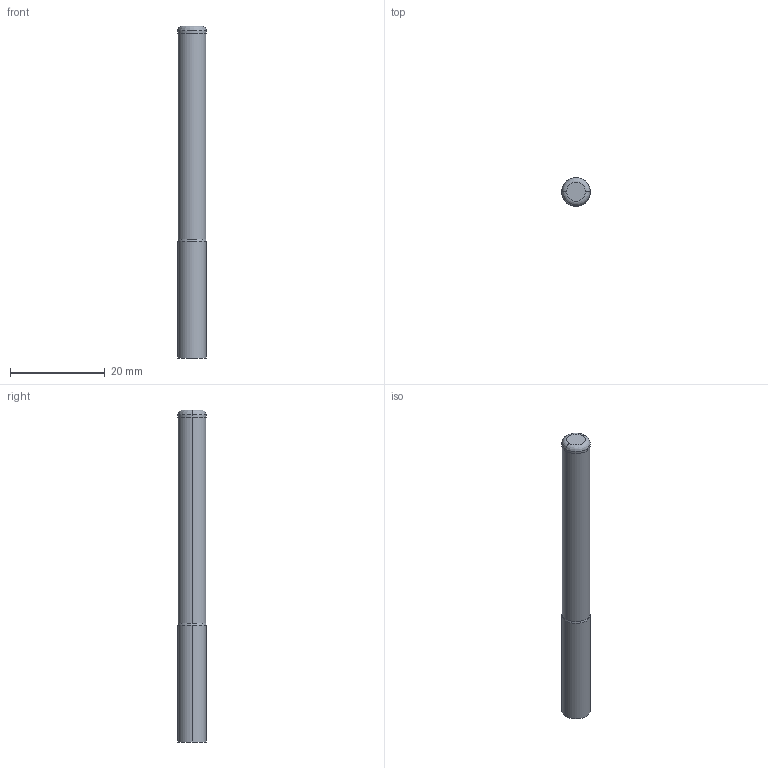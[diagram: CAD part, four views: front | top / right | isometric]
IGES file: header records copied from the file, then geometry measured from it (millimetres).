
Start section: 3D InterOp IGES (v. 2020 1.0.1), Spatial Corp. Copyright (c) 1999-2017.
Global section: file name: WZF279967_6_45_1.igs; native system: Spatial Corp.; preprocessor: 3D InterOp GENERIC/IGES 3.0; author: Noname; organization: Noname; date: 20201007.094526; units: metre
Bounding box: 6 x 6 x 70 mm (x, y, z)
Surface area: 1342.1 mm2 (no closed solid volume)
Topology: 0 solids, 0 shells, 13 faces, 48 edges, 48 vertices
Faces by surface type: revolution 10, extrusion 3
